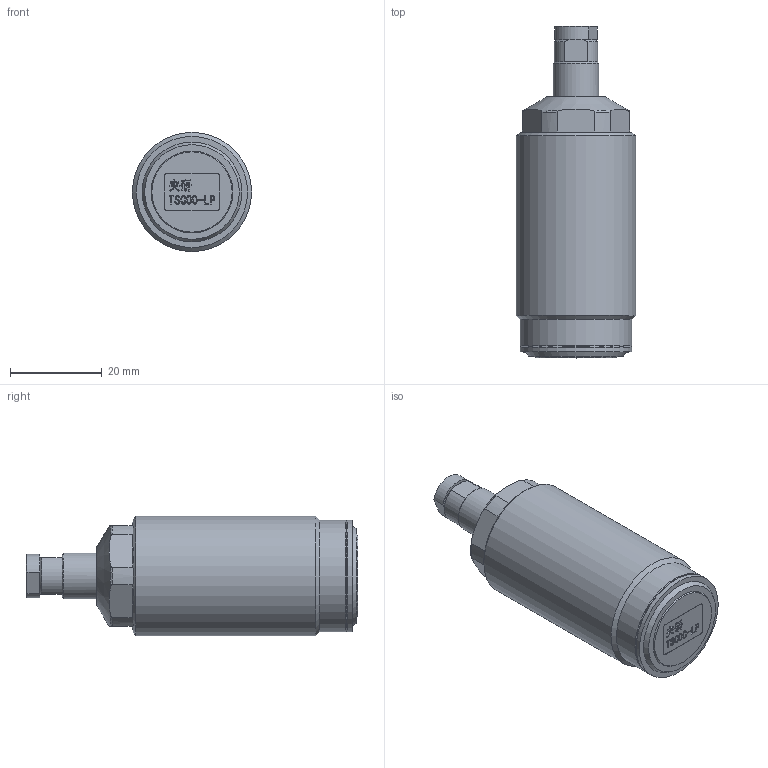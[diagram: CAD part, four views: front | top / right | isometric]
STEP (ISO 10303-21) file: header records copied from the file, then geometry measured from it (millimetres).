
FILE_DESCRIPTION(/* description */ (''),/* implementation_level */ '2;1');
FILE_NAME(/* name */ 'TSC00-LP.stp',/* time_stamp */ '2022-05-04T14:28:30+08:00',/* author */ (''),/* organization */ (''),/* preprocessor_version */ 'ST-DEVELOPER v16.7',/* originating_system */ 'SIEMENS PLM Software NX 12.0',/* authorisation */ '');
FILE_SCHEMA (('AUTOMOTIVE_DESIGN { 1 0 10303 214 3 1 1 1 }'));
Length unit declared in the file: millimetre
Products named in the file (1): _model2
Bounding box: 26 x 72.46 x 26 mm (x, y, z)
Volume: 29085.8 mm3; surface area: 7524.2 mm2
Topology: 3 solids, 3 shells, 239 faces, 603 edges, 396 vertices
Faces by surface type: plane 132, extrusion 64, cylinder 19, torus 12, cone 11, sphere 1
Full cylindrical faces by diameter (mm): 3.5 x1, 4.5 x1, 6 x2, 7.3 x1, 10 x2, 23.5 x1, 24.3 x2, 26 x1
Entity records: 9462 total; most frequent: CARTESIAN_POINT 2864, ORIENTED_EDGE 1138, DIRECTION 909, EDGE_CURVE 569, VECTOR 409, VERTEX_POINT 392, LINE 345, EDGE_LOOP 295
